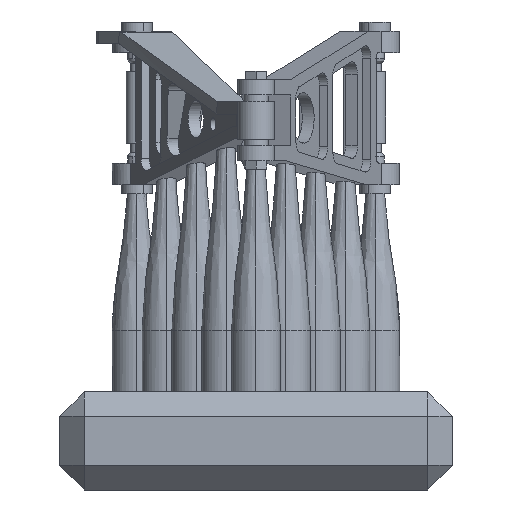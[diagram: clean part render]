
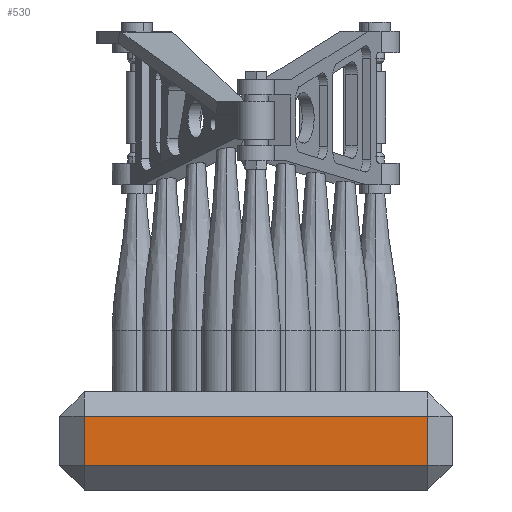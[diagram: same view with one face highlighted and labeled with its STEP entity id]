
A CAD part, left-side view. The second image highlights one B-rep face of the part: STEP entity #530.
In plain terms, the highlighted planar face has unit normal (-1, 0, 0).
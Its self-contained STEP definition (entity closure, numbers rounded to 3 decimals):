
#530=ADVANCED_FACE('',(#1062),#8528,.T.);
#1062=FACE_OUTER_BOUND('',#1688,.T.);
#1688=EDGE_LOOP('',(#4076,#4077,#4078,#4079));
#4076=ORIENTED_EDGE('',*,*,#5652,.F.);
#4077=ORIENTED_EDGE('',*,*,#5653,.T.);
#4078=ORIENTED_EDGE('',*,*,#5651,.F.);
#4079=ORIENTED_EDGE('',*,*,#5650,.F.);
#5650=EDGE_CURVE('',#8010,#8011,#7214,.T.);
#5651=EDGE_CURVE('',#8011,#8012,#7215,.T.);
#5652=EDGE_CURVE('',#8013,#8010,#7216,.T.);
#5653=EDGE_CURVE('',#8013,#8012,#7217,.T.);
#7214=B_SPLINE_CURVE_WITH_KNOTS('',1,(#15707,#15708),.UNSPECIFIED.,.F.,
 .F.,(2,2),(0.4,6.),.UNSPECIFIED.);
#7215=B_SPLINE_CURVE_WITH_KNOTS('',1,(#15709,#15710),.UNSPECIFIED.,.F.,
 .F.,(2,2),(0.4,1.2),.UNSPECIFIED.);
#7216=B_SPLINE_CURVE_WITH_KNOTS('',1,(#15711,#15712),.UNSPECIFIED.,.F.,
 .F.,(2,2),(0.4,1.2),.UNSPECIFIED.);
#7217=B_SPLINE_CURVE_WITH_KNOTS('',1,(#15713,#15714),.UNSPECIFIED.,.F.,
 .F.,(2,2),(0.4,6.),.UNSPECIFIED.);
#8010=VERTEX_POINT('',#12083);
#8011=VERTEX_POINT('',#12084);
#8012=VERTEX_POINT('',#12085);
#8013=VERTEX_POINT('',#12086);
#8528=PLANE('',#8859);
#8859=AXIS2_PLACEMENT_3D('',#9875,#9315,$);
#9315=DIRECTION('',(-1.,0.,0.));
#9875=CARTESIAN_POINT('',(-6.2,3.2,-0.16));
#12083=CARTESIAN_POINT('',(-6.2,2.8,1.2));
#12084=CARTESIAN_POINT('',(-6.2,-2.8,1.2));
#12085=CARTESIAN_POINT('',(-6.2,-2.8,0.4));
#12086=CARTESIAN_POINT('',(-6.2,2.8,0.4));
#15707=CARTESIAN_POINT('',(-6.2,2.8,1.2));
#15708=CARTESIAN_POINT('',(-6.2,-2.8,1.2));
#15709=CARTESIAN_POINT('',(-6.2,-2.8,1.2));
#15710=CARTESIAN_POINT('',(-6.2,-2.8,0.4));
#15711=CARTESIAN_POINT('',(-6.2,2.8,0.4));
#15712=CARTESIAN_POINT('',(-6.2,2.8,1.2));
#15713=CARTESIAN_POINT('',(-6.2,2.8,0.4));
#15714=CARTESIAN_POINT('',(-6.2,-2.8,0.4));
